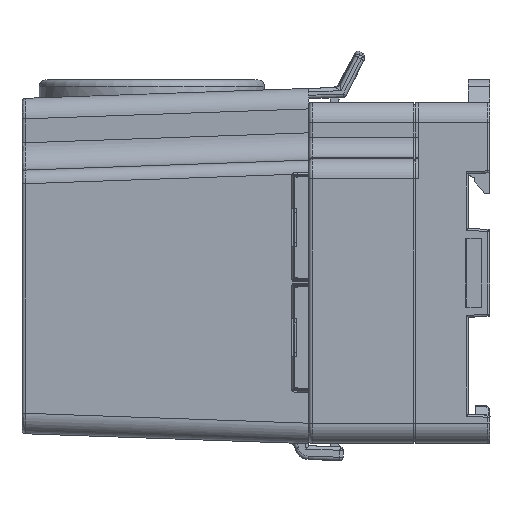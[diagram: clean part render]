
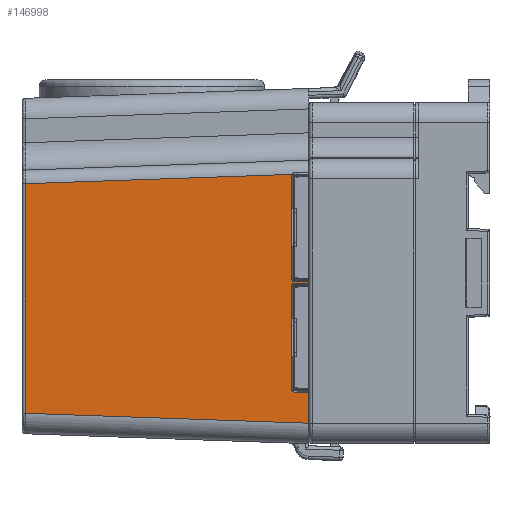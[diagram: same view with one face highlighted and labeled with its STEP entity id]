
A CAD part, left-side view. The second image highlights one B-rep face of the part: STEP entity #146998.
In plain terms, the highlighted planar face has unit normal (-0.999, 0.035, 0).
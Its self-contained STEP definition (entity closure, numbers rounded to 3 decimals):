
#7118=DIRECTION('',(0.,0.,-1.));
#7119=VECTOR('',#7118,36.503);
#7120=CARTESIAN_POINT('',(-63.5,7.6,14.501));
#7121=LINE('',#7120,#7119);
#48154=DIRECTION('',(-0.035,-0.999,-0.035));
#48155=VECTOR('',#48154,41.568);
#48156=CARTESIAN_POINT('',(-62.05,49.117,
-20.552));
#48157=LINE('',#48156,#48155);
#48158=DIRECTION('',(0.,0.,1.));
#48159=VECTOR('',#48158,33.603);
#48160=CARTESIAN_POINT('',(-62.05,49.117,
-20.552));
#48161=LINE('',#48160,#48159);
#48162=DIRECTION('',(0.035,0.999,-0.035));
#48163=VECTOR('',#48162,41.568);
#48164=CARTESIAN_POINT('',(-63.5,7.6,14.501));
#48165=LINE('',#48164,#48163);
#48176=CARTESIAN_POINT('',(-62.05,49.117,
-20.552));
#82299=VERTEX_POINT('',#48176);
#82302=CARTESIAN_POINT('',(-62.05,49.117,
13.051));
#82303=VERTEX_POINT('',#82302);
#82613=CARTESIAN_POINT('',(-63.5,7.6,14.501));
#82614=CARTESIAN_POINT('',(-63.5,7.6,-22.002));
#82615=VERTEX_POINT('',#82613);
#82616=VERTEX_POINT('',#82614);
#146984=CARTESIAN_POINT('',(-63.5,7.6,-27.2));
#146985=DIRECTION('',(-0.999,0.035,0.));
#146986=DIRECTION('',(0.,0.,-1.));
#146987=AXIS2_PLACEMENT_3D('',#146984,#146985,#146986);
#146988=PLANE('',#146987);
#146989=ORIENTED_EDGE('',*,*,#87111,.T.);
#146991=ORIENTED_EDGE('',*,*,#146990,.F.);
#146993=ORIENTED_EDGE('',*,*,#146992,.T.);
#146995=ORIENTED_EDGE('',*,*,#146994,.F.);
#146996=EDGE_LOOP('',(#146989,#146991,#146993,#146995));
#146997=FACE_OUTER_BOUND('',#146996,.F.);
#146998=ADVANCED_FACE('',(#146997),#146988,.T.);
#87111=EDGE_CURVE('',#82615,#82616,#7121,.T.);
#146990=EDGE_CURVE('',#82299,#82616,#48157,.T.);
#146992=EDGE_CURVE('',#82299,#82303,#48161,.T.);
#146994=EDGE_CURVE('',#82615,#82303,#48165,.T.);
